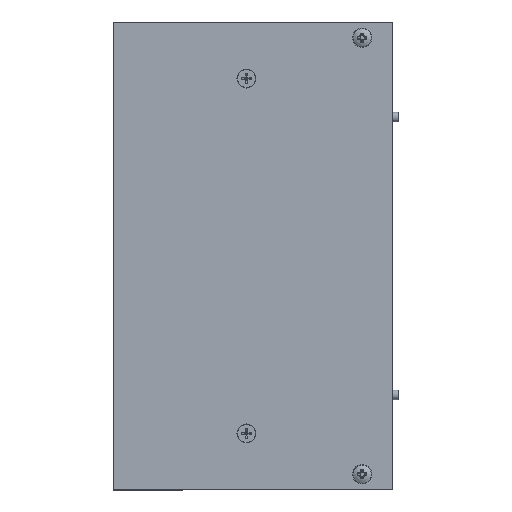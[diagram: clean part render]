
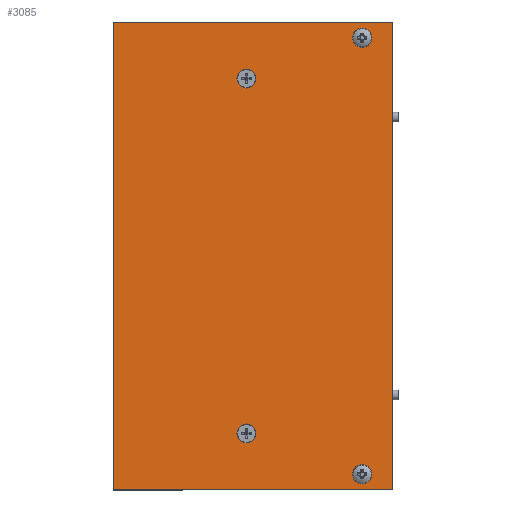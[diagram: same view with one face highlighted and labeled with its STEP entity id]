
A CAD part, left-side view. The second image highlights one B-rep face of the part: STEP entity #3085.
In plain terms, the highlighted planar face has unit normal (-1, 0, 0) as drawn and (0, 0, 1) by its records, which use the part's own axes.
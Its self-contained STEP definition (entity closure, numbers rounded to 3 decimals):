
#497=FACE_BOUND('',#859,.T.);
#498=FACE_BOUND('',#860,.T.);
#499=FACE_BOUND('',#861,.T.);
#500=FACE_BOUND('',#862,.T.);
#534=PLANE('',#3542);
#676=FACE_OUTER_BOUND('',#858,.T.);
#858=EDGE_LOOP('',(#2437,#2438,#2439,#2440));
#859=EDGE_LOOP('',(#2441));
#860=EDGE_LOOP('',(#2442));
#861=EDGE_LOOP('',(#2443));
#862=EDGE_LOOP('',(#2444));
#1035=LINE('',#5072,#1208);
#1039=LINE('',#5080,#1212);
#1042=LINE('',#5086,#1215);
#1045=LINE('',#5091,#1218);
#1208=VECTOR('',#4113,10.);
#1212=VECTOR('',#4119,10.);
#1215=VECTOR('',#4124,10.);
#1218=VECTOR('',#4129,10.);
#1378=CIRCLE('',#3527,2.95);
#1380=CIRCLE('',#3530,2.95);
#1383=CIRCLE('',#3534,1.9);
#1385=CIRCLE('',#3537,1.9);
#1598=VERTEX_POINT('',#5046);
#1600=VERTEX_POINT('',#5052);
#1603=VERTEX_POINT('',#5060);
#1605=VERTEX_POINT('',#5066);
#1606=VERTEX_POINT('',#5070);
#1607=VERTEX_POINT('',#5071);
#1610=VERTEX_POINT('',#5079);
#1612=VERTEX_POINT('',#5085);
#1899=EDGE_CURVE('',#1598,#1598,#1378,.T.);
#1902=EDGE_CURVE('',#1600,#1600,#1380,.T.);
#1907=EDGE_CURVE('',#1603,#1603,#1383,.T.);
#1910=EDGE_CURVE('',#1605,#1605,#1385,.T.);
#1911=EDGE_CURVE('',#1606,#1607,#1035,.T.);
#1915=EDGE_CURVE('',#1607,#1610,#1039,.T.);
#1918=EDGE_CURVE('',#1610,#1612,#1042,.T.);
#1921=EDGE_CURVE('',#1612,#1606,#1045,.T.);
#2437=ORIENTED_EDGE('',*,*,#1921,.T.);
#2438=ORIENTED_EDGE('',*,*,#1911,.T.);
#2439=ORIENTED_EDGE('',*,*,#1915,.T.);
#2440=ORIENTED_EDGE('',*,*,#1918,.T.);
#2441=ORIENTED_EDGE('',*,*,#1899,.T.);
#2442=ORIENTED_EDGE('',*,*,#1902,.T.);
#2443=ORIENTED_EDGE('',*,*,#1910,.T.);
#2444=ORIENTED_EDGE('',*,*,#1907,.T.);
#3085=ADVANCED_FACE('',(#676,#497,#498,#499,#500),#534,.T.);
#3527=AXIS2_PLACEMENT_3D('',#5047,#4085,#4086);
#3530=AXIS2_PLACEMENT_3D('',#5053,#4092,#4093);
#3534=AXIS2_PLACEMENT_3D('',#5062,#4102,#4103);
#3537=AXIS2_PLACEMENT_3D('',#5068,#4109,#4110);
#3542=AXIS2_PLACEMENT_3D('',#5093,#4131,#4132);
#4085=DIRECTION('center_axis',(0.,0.,-1.));
#4086=DIRECTION('ref_axis',(1.,0.,0.));
#4092=DIRECTION('center_axis',(0.,0.,-1.));
#4093=DIRECTION('ref_axis',(1.,0.,0.));
#4102=DIRECTION('center_axis',(0.,0.,-1.));
#4103=DIRECTION('ref_axis',(-1.,0.,0.));
#4109=DIRECTION('center_axis',(0.,0.,-1.));
#4110=DIRECTION('ref_axis',(-1.,0.,0.));
#4113=DIRECTION('',(0.,-1.,0.));
#4119=DIRECTION('',(1.,0.,0.));
#4124=DIRECTION('',(0.,1.,0.));
#4129=DIRECTION('',(-1.,0.,0.));
#4131=DIRECTION('center_axis',(0.,0.,1.));
#4132=DIRECTION('ref_axis',(1.,0.,0.));
#5046=CARTESIAN_POINT('',(-58.15,2.,0.));
#5047=CARTESIAN_POINT('Origin',(-55.2,2.,0.));
#5052=CARTESIAN_POINT('',(52.25,2.,0.));
#5053=CARTESIAN_POINT('Origin',(55.2,2.,0.));
#5060=CARTESIAN_POINT('',(-66.,-34.,0.));
#5062=CARTESIAN_POINT('Origin',(-67.9,-34.,0.));
#5066=CARTESIAN_POINT('',(69.8,-34.,0.));
#5068=CARTESIAN_POINT('Origin',(67.9,-34.,0.));
#5070=CARTESIAN_POINT('',(-72.8,43.5,0.));
#5071=CARTESIAN_POINT('',(-72.8,-43.5,0.));
#5072=CARTESIAN_POINT('',(-72.8,43.5,0.));
#5079=CARTESIAN_POINT('',(72.8,-43.5,0.));
#5080=CARTESIAN_POINT('',(-72.8,-43.5,0.));
#5085=CARTESIAN_POINT('',(72.8,43.5,0.));
#5086=CARTESIAN_POINT('',(72.8,-43.5,0.));
#5091=CARTESIAN_POINT('',(72.8,43.5,0.));
#5093=CARTESIAN_POINT('Origin',(0.,0.,0.));
